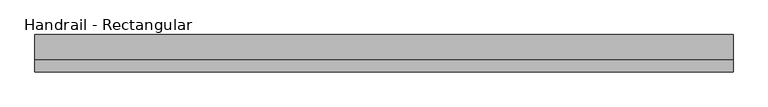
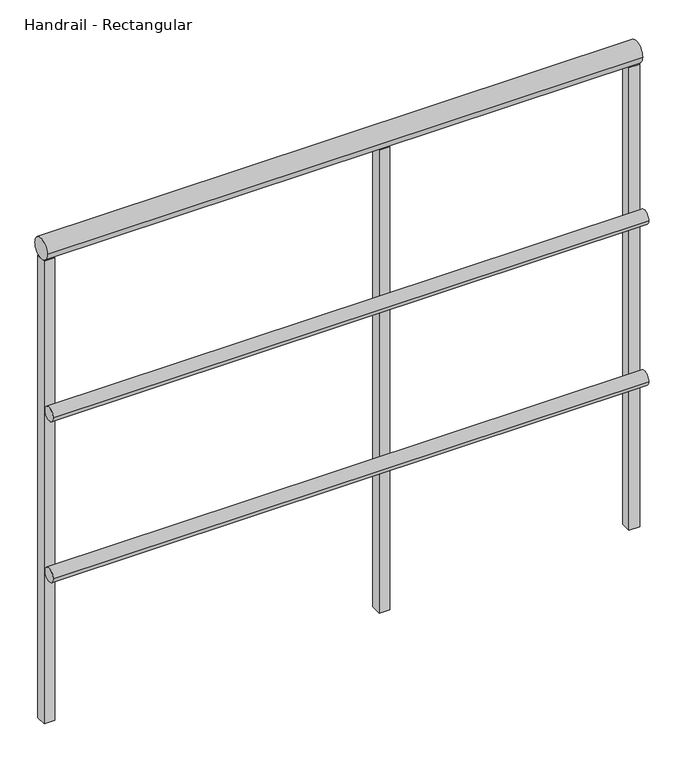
"""IFC4 building model written with IfcOpenShell, lengths in millimetres: railing geometry, Handrail - Rectangular."""

import ifcopenshell
import ifcopenshell.guid

model = None  # the IFC model being written
_history = None  # IfcOwnerHistory: only IFC2X3 demands one
_inside = {}  # id of a spatial element -> (the spatial element, [elements in it])
_under = {}  # id of a project, library or spatial element -> (it, [spatial elements below it])
_declared = {}  # id of a project -> (the project, [libraries it declares])
_typed = {}  # id of a type object -> (the type object, [elements of that type])
_made_of = {}  # id of a material, layer set ... -> (it, [elements and type objects made of it])


def new_model(schema):
    """Start an empty IFC model of exactly this schema.

    Asked for "IFC4X3", IfcOpenShell would pick the latest addendum, in which some entities
    have other attributes; the version numbers below select the first issue.
    IFC2X3 requires an IfcOwnerHistory on every rooted entity: one is made here for all.
    """
    global model, _history
    if schema == "IFC4X3":
        model = ifcopenshell.file(schema_version=(4, 3, 0, 0))
    else:
        model = ifcopenshell.file(schema=schema)
    _inside.clear()
    _under.clear()
    _declared.clear()
    _typed.clear()
    _made_of.clear()
    _history = None
    if model.schema == "IFC2X3":
        org = make("IfcOrganization", Name="unknown")
        user = make(
            "IfcPersonAndOrganization",
            ThePerson=make("IfcPerson", FamilyName="unknown"),
            TheOrganization=org,
        )
        app = make(
            "IfcApplication",
            ApplicationDeveloper=org,
            Version="unknown",
            ApplicationFullName="unknown",
            ApplicationIdentifier="unknown",
        )
        _history = make(
            "IfcOwnerHistory",
            OwningUser=user,
            OwningApplication=app,
            ChangeAction="ADDED",
            CreationDate=0,
        )
    return model


def make(cls, **values):
    """One entity of the class cls with the attributes given. An attribute that is None is left unset."""
    return model.create_entity(
        cls, **{name: value for name, value in values.items() if value is not None}
    )


def rooted(cls, **values):
    """An entity with a GlobalId (a new one), such as an element, a storey or a relation."""
    return make(cls, GlobalId=ifcopenshell.guid.new(), OwnerHistory=_history, **values)


def si_unit(unit_type, name, prefix=None):
    """IfcSIUnit, for example si_unit("LENGTHUNIT", "METRE", prefix="MILLI")."""
    return make("IfcSIUnit", UnitType=unit_type, Prefix=prefix, Name=name)


def assignment(units):
    """IfcUnitAssignment: the units of a project."""
    return None if units is None else make("IfcUnitAssignment", Units=units)


def point(xyz):
    """IfcCartesianPoint."""
    return None if xyz is None else make("IfcCartesianPoint", Coordinates=xyz)


def direction(xyz):
    """IfcDirection."""
    return None if xyz is None else make("IfcDirection", DirectionRatios=xyz)


def frame(location, z_axis=None, x_axis=None):
    """IfcAxis2Placement3D, a coordinate frame: its origin and axes. An axis left out is left unset."""
    return make(
        "IfcAxis2Placement3D",
        Location=point(location),
        Axis=direction(z_axis),
        RefDirection=direction(x_axis),
    )


def frame_2d(location, x_axis=None):
    """IfcAxis2Placement2D, a coordinate frame in the plane: its origin and x axis."""
    return make(
        "IfcAxis2Placement2D", Location=point(location), RefDirection=direction(x_axis)
    )


def origin():
    """The frame at (0, 0, 0) with its axes left unset."""
    return frame((0.0, 0.0, 0.0))


def place(relative_to, where):
    """IfcLocalPlacement: puts the frame where relative to a parent placement (None: the world)."""
    return make(
        "IfcLocalPlacement", PlacementRelTo=relative_to, RelativePlacement=where
    )


def context(
    kind, dimensions, precision=None, world=None, true_north=None, identifier=None
):
    """IfcGeometricRepresentationContext, for example the 3D "Model" context."""
    return make(
        "IfcGeometricRepresentationContext",
        ContextIdentifier=identifier,
        ContextType=kind,
        CoordinateSpaceDimension=dimensions,
        Precision=precision,
        WorldCoordinateSystem=world,
        TrueNorth=true_north,
    )


def project(units=None, contexts=None):
    """IfcProject with its units and contexts."""
    return rooted(
        "IfcProject",
        Name="project",
        RepresentationContexts=contexts,
        UnitsInContext=assignment(units),
    )


def spatial(cls, under=None, at=None, **own):
    """A site, building, storey or space (cls), placed at a placement, below another one or the project."""
    s = rooted(cls, ObjectPlacement=at, **own)
    if under is not None:
        _under.setdefault(under.id(), (under, []))[1].append(s)
    return s


def polyline(points):
    """IfcPolyline through the points."""
    return make("IfcPolyline", Points=[point(p) for p in points])


def circle_curve(where, radius):
    """IfcCircle in the frame where."""
    return make("IfcCircle", Position=where, Radius=radius)


def trimmed(basis, trim1, trim2, sense, master):
    """IfcTrimmedCurve: the piece of a basis curve between two trims."""
    return make(
        "IfcTrimmedCurve",
        BasisCurve=basis,
        Trim1=trim1,
        Trim2=trim2,
        SenseAgreement=sense,
        MasterRepresentation=master,
    )


def segment(curve, same_sense, transition):
    """IfcCompositeCurveSegment."""
    return make(
        "IfcCompositeCurveSegment",
        Transition=transition,
        SameSense=same_sense,
        ParentCurve=curve,
    )


def composite_curve(segments, self_intersect=None):
    """IfcCompositeCurve: segments joined end to end."""
    return make("IfcCompositeCurve", Segments=segments, SelfIntersect=self_intersect)


def outline(outer, holes=None, kind="AREA"):
    """IfcArbitraryClosedProfileDef: a profile drawn as a closed curve; with holes, ...WithVoids."""
    if holes is None:
        return make("IfcArbitraryClosedProfileDef", ProfileType=kind, OuterCurve=outer)
    return make(
        "IfcArbitraryProfileDefWithVoids",
        ProfileType=kind,
        OuterCurve=outer,
        InnerCurves=holes,
    )


def extrude(swept, where, along, depth):
    """IfcExtrudedAreaSolid: the profile swept, set in the frame where, extruded along a direction by depth."""
    return make(
        "IfcExtrudedAreaSolid",
        SweptArea=swept,
        Position=where,
        ExtrudedDirection=direction(along),
        Depth=depth,
    )


def shape(context_of_items, identifier, shape_type, items):
    """IfcShapeRepresentation: the items that make up one representation, for example the "Body"."""
    return make(
        "IfcShapeRepresentation",
        ContextOfItems=context_of_items,
        RepresentationIdentifier=identifier,
        RepresentationType=shape_type,
        Items=items,
    )


def source(mapping_origin, context_of_items, identifier, shape_type, items):
    """IfcRepresentationMap: a shape defined once, which mapped items show again and again."""
    return make(
        "IfcRepresentationMap",
        MappingOrigin=mapping_origin,
        MappedRepresentation=shape(context_of_items, identifier, shape_type, items),
    )


def transform(
    local_origin,
    x_axis=None,
    y_axis=None,
    z_axis=None,
    scale=None,
    scale2=None,
    scale3=None,
    uniform=True,
):
    """IfcCartesianTransformationOperator3D, or its non-uniform kind. x_axis, y_axis, z_axis: its Axis1, 2, 3."""
    if uniform:
        return make(
            "IfcCartesianTransformationOperator3D",
            Axis1=direction(x_axis),
            Axis2=direction(y_axis),
            LocalOrigin=point(local_origin),
            Scale=scale,
            Axis3=direction(z_axis),
        )
    return make(
        "IfcCartesianTransformationOperator3DnonUniform",
        Axis1=direction(x_axis),
        Axis2=direction(y_axis),
        LocalOrigin=point(local_origin),
        Scale=scale,
        Axis3=direction(z_axis),
        Scale2=scale2,
        Scale3=scale3,
    )


def mapped(mapping_source, mapping_target):
    """IfcMappedItem: shows the shape of a source again, moved by a transform."""
    return make(
        "IfcMappedItem", MappingSource=mapping_source, MappingTarget=mapping_target
    )


def made_of(thing, what):
    """Note that an element or type object is made of a material, layer set ...; save() writes the relation."""
    if what is not None:
        _made_of.setdefault(what.id(), (what, []))[1].append(thing)
    return thing


def element(
    cls,
    number,
    at=None,
    inside=None,
    cuts=None,
    type_object=None,
    material=None,
    context=None,
    identifier="Body",
    shape_type=None,
    held_by="IfcProductDefinitionShape",
    body=None,
    shapes=None,
    **own,
):
    """One element of the class cls, such as IfcWall. Its Tag is "e" and its number.

    at: its placement. inside: the storey or other place that contains it. cuts: it is an
    opening in that element (IfcRelVoidsElement). A single representation is given by context,
    identifier, shape_type and body (its items); several are given by shapes. held_by: the class
    of the entity that holds the representations. save() writes the other relations.
    """
    e = rooted(cls, Tag="e%d" % number, ObjectPlacement=at, **own)
    if body is not None:
        shapes = [shape(context, identifier, shape_type, body)]
    if shapes is not None:
        e.Representation = make(held_by, Representations=shapes)
    if inside is not None:
        _inside.setdefault(inside.id(), (inside, []))[1].append(e)
    if cuts is not None:
        rooted(
            "IfcRelVoidsElement", RelatingBuildingElement=cuts, RelatedOpeningElement=e
        )
    if type_object is not None:
        _typed.setdefault(type_object.id(), (type_object, []))[1].append(e)
    return made_of(e, material)


def aggregate(whole, parts):
    """IfcRelAggregates: a whole, such as a stair, and the parts it consists of."""
    return rooted("IfcRelAggregates", RelatingObject=whole, RelatedObjects=parts)


def save(model, path):
    """Write the relations noted so far, then the file.

    IfcRelAggregates (storeys below a building ...), IfcRelContainedInSpatialStructure (elements
    in a storey), IfcRelDefinesByType, IfcRelAssociatesMaterial and IfcRelDeclares: one each for
    every whole, place, type object, material and project.
    """
    for whole, parts in _under.values():
        aggregate(whole, parts)
    for where, things in _inside.values():
        rooted(
            "IfcRelContainedInSpatialStructure",
            RelatedElements=things,
            RelatingStructure=where,
        )
    for kind, things in _typed.values():
        rooted("IfcRelDefinesByType", RelatedObjects=things, RelatingType=kind)
    for what, things in _made_of.values():
        rooted("IfcRelAssociatesMaterial", RelatedObjects=things, RelatingMaterial=what)
    for by, libraries in _declared.values():
        rooted("IfcRelDeclares", RelatingContext=by, RelatedDefinitions=libraries)
    model.write(path)


def handrail_rectangular_beab0f10(model_context):
    return source(origin(), model_context, "Body", "SweptSolid", [
        extrude(outline(composite_curve([segment(trimmed(circle_curve(frame_2d((-35578.5683133, 9740.9)), 12.7), [point((-35591.2683133, 9740.9))], [point((-35565.8683133, 9740.9))], False, "CARTESIAN"), True, "CONTINUOUS"), segment(trimmed(circle_curve(frame_2d((-35578.5683133, 9740.9)), 12.7), [point((-35565.8683133, 9740.9))], [point((-35591.2683133, 9740.9))], False, "CARTESIAN"), True, "CONTINUOUS")], self_intersect=False)), frame((1027.1410437, 0.0, 0.0), z_axis=(1.0, 0.0, 0.0), x_axis=(0.0, 1.0, 0.0)), (0.0, 0.0, 1.0), 1066.8),
        extrude(outline(composite_curve([segment(trimmed(circle_curve(frame_2d((-35578.5683133, 9436.1)), 12.7), [point((-35591.2683133, 9436.1))], [point((-35565.8683133, 9436.1))], False, "CARTESIAN"), True, "CONTINUOUS"), segment(trimmed(circle_curve(frame_2d((-35578.5683133, 9436.1)), 12.7), [point((-35565.8683133, 9436.1))], [point((-35591.2683133, 9436.1))], False, "CARTESIAN"), True, "CONTINUOUS")], self_intersect=False)), frame((1027.1410437, 0.0, 0.0), z_axis=(1.0, 0.0, 0.0), x_axis=(0.0, 1.0, 0.0)), (0.0, 0.0, 1.0), 1066.8),
        extrude(outline(composite_curve([segment(trimmed(circle_curve(frame_2d((-35553.1683133, 10039.35)), 19.05), [point((-35572.2183133, 10039.35))], [point((-35534.1183133, 10039.35))], False, "CARTESIAN"), True, "CONTINUOUS"), segment(trimmed(circle_curve(frame_2d((-35553.1683133, 10039.35)), 19.05), [point((-35534.1183133, 10039.35))], [point((-35572.2183133, 10039.35))], False, "CARTESIAN"), True, "CONTINUOUS")], self_intersect=False)), frame((1027.1410437, 0.0, 0.0), z_axis=(1.0, 0.0, 0.0), x_axis=(0.0, 1.0, 0.0)), (0.0, 0.0, 1.0), 1066.8),
        extrude(outline(polyline([(1627.2160437, -35543.6433133), (1646.2660437, -35543.6433133), (1646.2660437, -35562.6933133), (1627.2160437, -35562.6933133), (1627.2160437, -35543.6433133)])), frame((0.0, 0.0, 9144.0), z_axis=(0.0, 0.0, 1.0), x_axis=(1.0, 0.0, 0.0)), (0.0, 0.0, 1.0), 876.3),
        extrude(outline(polyline([(2074.8910437, -35543.6433133), (2093.9410437, -35543.6433133), (2093.9410437, -35562.6933133), (2074.8910437, -35562.6933133), (2074.8910437, -35543.6433133)])), frame((0.0, 0.0, 9144.0), z_axis=(0.0, 0.0, 1.0), x_axis=(1.0, 0.0, 0.0)), (0.0, 0.0, 1.0), 876.3),
        extrude(outline(polyline([(1027.1410437, -35543.6433133), (1046.1910437, -35543.6433133), (1046.1910437, -35562.6933133), (1027.1410437, -35562.6933133), (1027.1410437, -35543.6433133)])), frame((0.0, 0.0, 9144.0), z_axis=(0.0, 0.0, 1.0), x_axis=(1.0, 0.0, 0.0)), (0.0, 0.0, 1.0), 876.3),
    ])


if __name__ == "__main__":
    model = new_model("IFC4")
    model_context = context("Model", 3, world=origin())
    ifc_project = project(units=[si_unit("LENGTHUNIT", "METRE", prefix="MILLI")], contexts=[model_context])
    site = spatial("IfcSite", under=ifc_project)
    building = spatial("IfcBuilding", under=site)
    placement = place(None, origin())
    handrail_rectangular_shape = handrail_rectangular_beab0f10(model_context)
    element("IfcRailing", 1, ObjectType="Handrail - Rectangular", at=placement, inside=building, context=model_context, shape_type="MappedRepresentation", body=[
        mapped(handrail_rectangular_shape, transform((0.0, 0.0, 0.0), x_axis=(1.0, 0.0, 0.0), y_axis=(0.0, 1.0, 0.0), z_axis=(0.0, 0.0, 1.0))),
    ])
    save(model, "model.ifc")
